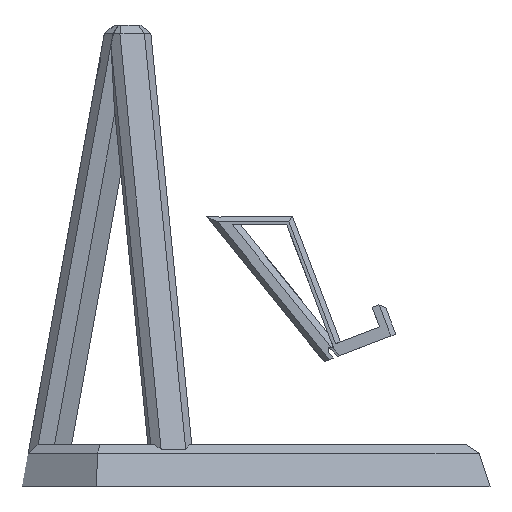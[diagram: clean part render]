
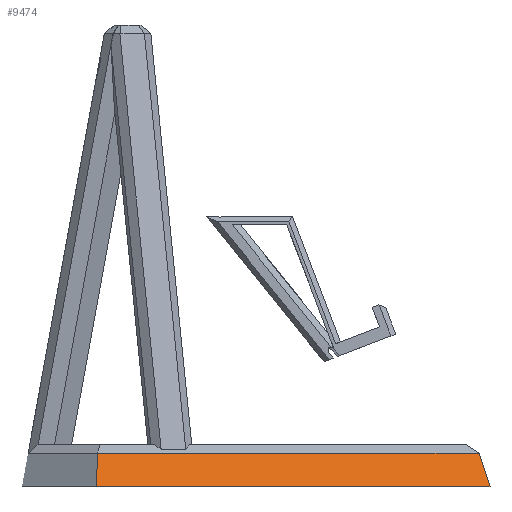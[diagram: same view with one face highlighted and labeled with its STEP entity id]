
A CAD part, left-side view. The second image highlights one B-rep face of the part: STEP entity #9474.
In plain terms, the highlighted planar face has unit normal (-0.962, -0.206, 0.179).
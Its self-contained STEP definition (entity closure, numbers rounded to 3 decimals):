
#714=FACE_OUTER_BOUND('',#1220,.T.);
#1220=EDGE_LOOP('',(#7487,#7488,#7489,#7490));
#1576=LINE('',#12719,#2700);
#2029=LINE('',#16616,#3153);
#2037=LINE('',#16632,#3161);
#2047=LINE('',#16648,#3171);
#2700=VECTOR('',#10453,10.);
#3153=VECTOR('',#11302,10.);
#3161=VECTOR('',#11312,10.);
#3171=VECTOR('',#11324,10.);
#3795=VERTEX_POINT('',#12695);
#3801=VERTEX_POINT('',#12718);
#4245=VERTEX_POINT('',#16614);
#4252=VERTEX_POINT('',#16630);
#4746=EDGE_CURVE('',#3795,#3801,#1576,.T.);
#5407=EDGE_CURVE('',#3795,#4245,#2029,.T.);
#5415=EDGE_CURVE('',#4245,#4252,#2037,.T.);
#5425=EDGE_CURVE('',#3801,#4252,#2047,.T.);
#7487=ORIENTED_EDGE('',*,*,#4746,.F.);
#7488=ORIENTED_EDGE('',*,*,#5407,.T.);
#7489=ORIENTED_EDGE('',*,*,#5415,.T.);
#7490=ORIENTED_EDGE('',*,*,#5425,.F.);
#9015=PLANE('',#9984);
#9474=ADVANCED_FACE('',(#714),#9015,.T.);
#9984=AXIS2_PLACEMENT_3D('',#16647,#11322,#11323);
#10453=DIRECTION('',(0.21,-0.978,0.));
#11302=DIRECTION('',(-0.191,0.04,-0.981));
#11312=DIRECTION('',(0.21,-0.978,0.));
#11322=DIRECTION('center_axis',(-0.962,-0.206,0.179));
#11323=DIRECTION('ref_axis',(-0.191,0.04,-0.981));
#11324=DIRECTION('',(-0.11,-0.307,-0.945));
#12695=CARTESIAN_POINT('',(-77.505,46.966,8.032));
#12718=CARTESIAN_POINT('',(-58.026,-43.938,8.032));
#12719=CARTESIAN_POINT('',(-76.376,41.698,8.032));
#16614=CARTESIAN_POINT('',(-79.069,47.297,0.));
#16616=CARTESIAN_POINT('',(-76.924,46.843,11.019));
#16630=CARTESIAN_POINT('',(-58.959,-46.55,0.));
#16632=CARTESIAN_POINT('',(-79.031,47.12,0.));
#16647=CARTESIAN_POINT('Origin',(-76.995,46.448,10.179));
#16648=CARTESIAN_POINT('',(-56.313,-39.146,22.771));
